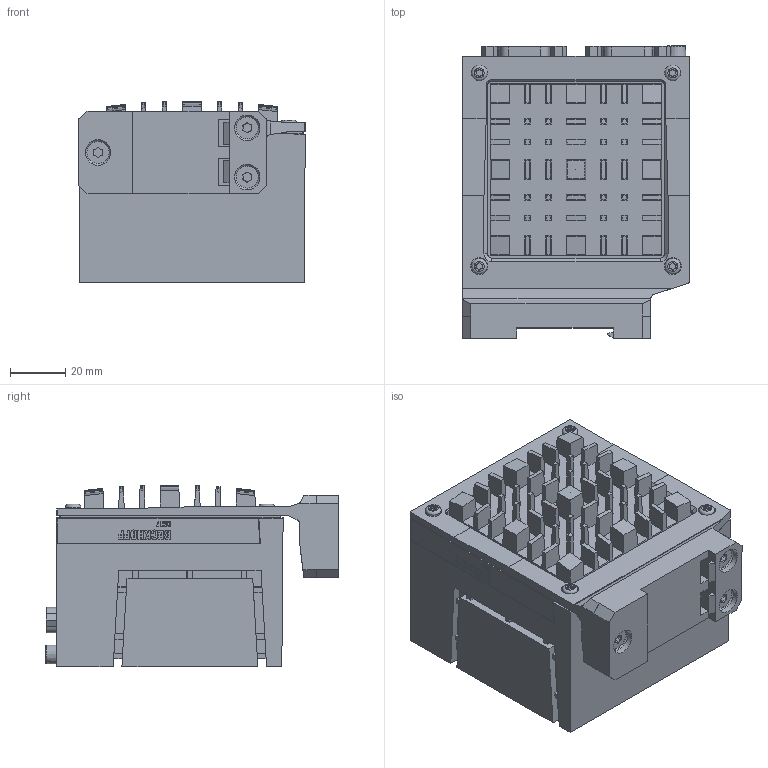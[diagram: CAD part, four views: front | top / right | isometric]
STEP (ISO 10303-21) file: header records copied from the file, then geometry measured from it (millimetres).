
FILE_DESCRIPTION(/* description */ ('-'),/* implementation_level */ '2;1');
FILE_NAME(/* name */ '0000021840.stp',/* time_stamp */ '2025-03-26T13:06:45+01:00',/* author */ ('-'),/* organization */ ('(c) Beckhoff Automation GmbH & Co. KG, 33415 Verl'),/* preprocessor_version */ 'ST-DEVELOPER v20',/* originating_system */ 'Autodesk Inventor 2024',/* authorisation */ '-');
FILE_SCHEMA (('AUTOMOTIVE_DESIGN { 1 0 10303 214 3 1 1 }'));
Length unit declared in the file: millimetre
Products named in the file (1): 0000021840
Bounding box: 82 x 105.95 x 65.8 mm (x, y, z)
Volume: 399297.4 mm3; surface area: 71734.1 mm2
Topology: 1 solids, 1 shells, 1428 faces, 3778 edges, 2501 vertices
Faces by surface type: plane 971, cylinder 187, bspline 170, sphere 49, cone 46, torus 5
Full cylindrical faces by diameter (mm): 2.3 x2, 3.242 x2, 3.8 x2, 5.7 x4, 6.2 x2, 8 x3, 9.2 x3
Entity records: 47380 total; most frequent: CARTESIAN_POINT 11015, ORIENTED_EDGE 7554, DIRECTION 6731, EDGE_CURVE 3777, LINE 2773, VECTOR 2773, VERTEX_POINT 2501, AXIS2_PLACEMENT_3D 1979
